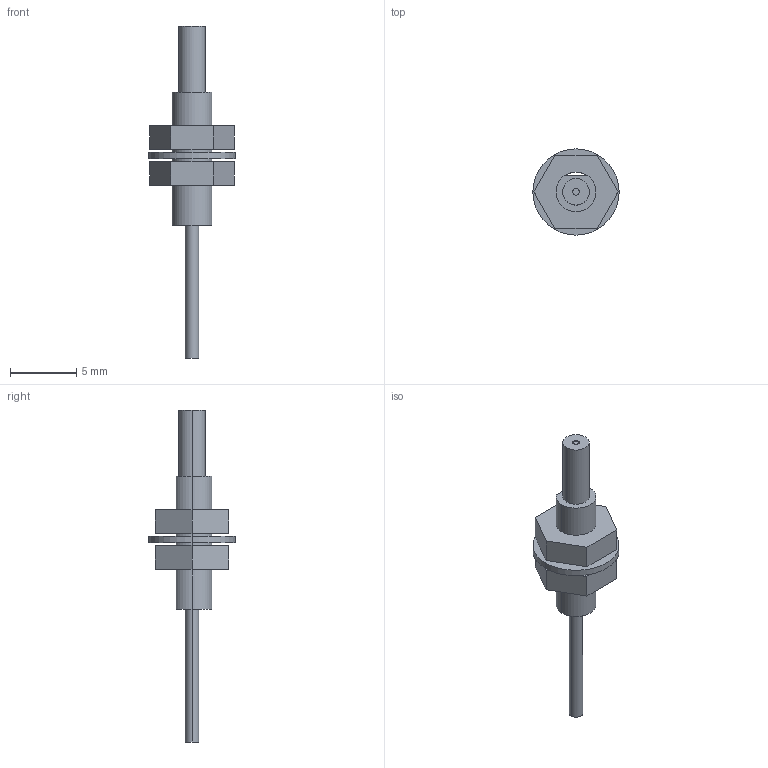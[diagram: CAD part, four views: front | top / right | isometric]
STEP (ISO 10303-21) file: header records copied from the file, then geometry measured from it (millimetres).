
FILE_DESCRIPTION (( 'STEP AP203' ), '1' );
FILE_NAME ('FT-NFM2.STEP', '2005-09-08T02:15:14', ( '' ), ( '' ), 'SwSTEP 2.0', 'SolidWorks 2004073', '' );
FILE_SCHEMA (( 'CONFIG_CONTROL_DESIGN' ));
Length unit declared in the file: millimetre
Products named in the file (1): FT-NFM2
Bounding box: 6.5 x 6.5 x 25 mm (x, y, z)
Volume: 172.5 mm3; surface area: 415.5 mm2
Topology: 4 solids, 4 shells, 41 faces, 90 edges, 60 vertices
Faces by surface type: plane 24, cylinder 17
Entity records: 1221 total; most frequent: DIRECTION 208, CARTESIAN_POINT 192, ORIENTED_EDGE 180, EDGE_CURVE 90, AXIS2_PLACEMENT_3D 76, VERTEX_POINT 60, VECTOR 56, LINE 56
